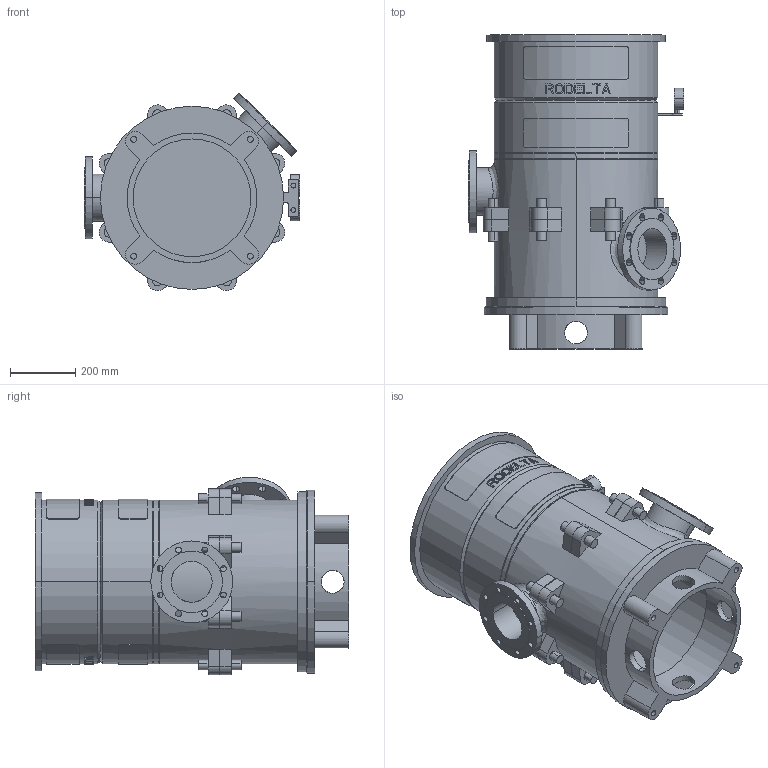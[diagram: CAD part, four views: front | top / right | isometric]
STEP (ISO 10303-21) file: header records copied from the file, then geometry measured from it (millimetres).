
FILE_DESCRIPTION((''),'2;1');
FILE_NAME('LS5_1TR_0GR_ABOVE_30KW','2023-08-08T',('Lyritlocal'),(''),'PRO/ENGINEER BY PARAMETRIC TECHNOLOGY CORPORATION, 2016360','PRO/ENGINEER BY PARAMETRIC TECHNOLOGY CORPORATION, 2016360','');
FILE_SCHEMA(('CONFIG_CONTROL_DESIGN'));
Length unit declared in the file: millimetre
Products named in the file (1): LS5_1TR_0GR_ABOVE_30KW
Bounding box: 660 x 960 x 603.65 mm (x, y, z)
Volume: 33717113.7 mm3; surface area: 4550025.4 mm2
Topology: 3 solids, 7 shells, 672 faces, 1747 edges, 1158 vertices
Faces by surface type: plane 414, cylinder 242, cone 12, bspline 4
Entity records: 22062 total; most frequent: CARTESIAN_POINT 5618, ORIENTED_EDGE 3478, DIRECTION 3269, EDGE_CURVE 1747, AXIS2_PLACEMENT_3D 1241, VERTEX_POINT 1158, EDGE_LOOP 809, VECTOR 787
